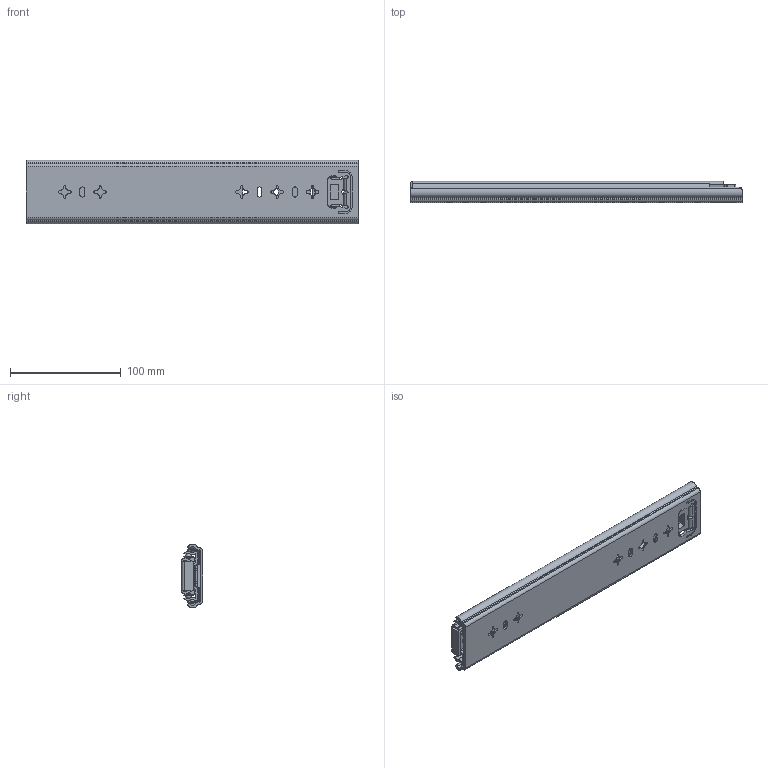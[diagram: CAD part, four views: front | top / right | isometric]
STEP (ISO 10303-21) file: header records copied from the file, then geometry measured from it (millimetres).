
FILE_DESCRIPTION((''),'2;1');
FILE_NAME('1057-02-12_ASM','2023-12-19T',('jishu015'),(''),'PRO/ENGINEER BY PARAMETRIC TECHNOLOGY CORPORATION, 2010280','PRO/ENGINEER BY PARAMETRIC TECHNOLOGY CORPORATION, 2010280','');
FILE_SCHEMA(('CONFIG_CONTROL_DESIGN'));
Length unit declared in the file: millimetre
Products named in the file (14): KP-57-01WEIKE-18______; 1057WEIJIAO______; 1057DAZHUJIA-14GE______; 1057-5-6GANZHU______; 1057DAZHUJIA-14GE_______ASM; KP-57-01ZHONGGUI-18______; 57-ZHONGGUIDINWEIJIAN______; KP-57-01ZHONGGUI-18_______ASM; 1057XIAOZHUJIA______; 1057XIAOZHUJIA-14GE_______ASM; KP-57-01NEIGUI-18______; 45TIEBACHA______; KP-57-01NEIGUI-18_______ASM; 1057-02-12_ASM
Assembly tree (48 placements, depth 3):
  1057-02-12_ASM
    KP-57-01WEIKE-18______
    1057WEIJIAO______
    1057DAZHUJIA-14GE_______ASM
      1057DAZHUJIA-14GE______
      1057-5-6GANZHU______  x12
    KP-57-01ZHONGGUI-18_______ASM
      KP-57-01ZHONGGUI-18______
      57-ZHONGGUIDINWEIJIAN______
    1057XIAOZHUJIA-14GE_______ASM
      1057XIAOZHUJIA______
      1057-5-6GANZHU______  x24
    KP-57-01NEIGUI-18_______ASM
      KP-57-01NEIGUI-18______
      45TIEBACHA______
Bounding box: 300 x 19 x 57.67 mm (x, y, z)
Volume: 127407.8 mm3; surface area: 145017.5 mm2
Topology: 44 solids, 46 shells, 1404 faces, 3911 edges, 2446 vertices
Faces by surface type: plane 676, cylinder 558, sphere 80, cone 54, bspline 30, torus 6
Entity records: 45203 total; most frequent: CARTESIAN_POINT 9644, DIRECTION 7499, ORIENTED_EDGE 7374, EDGE_CURVE 3689, AXIS2_PLACEMENT_3D 2572, VERTEX_POINT 2376, VECTOR 2355, LINE 2355
